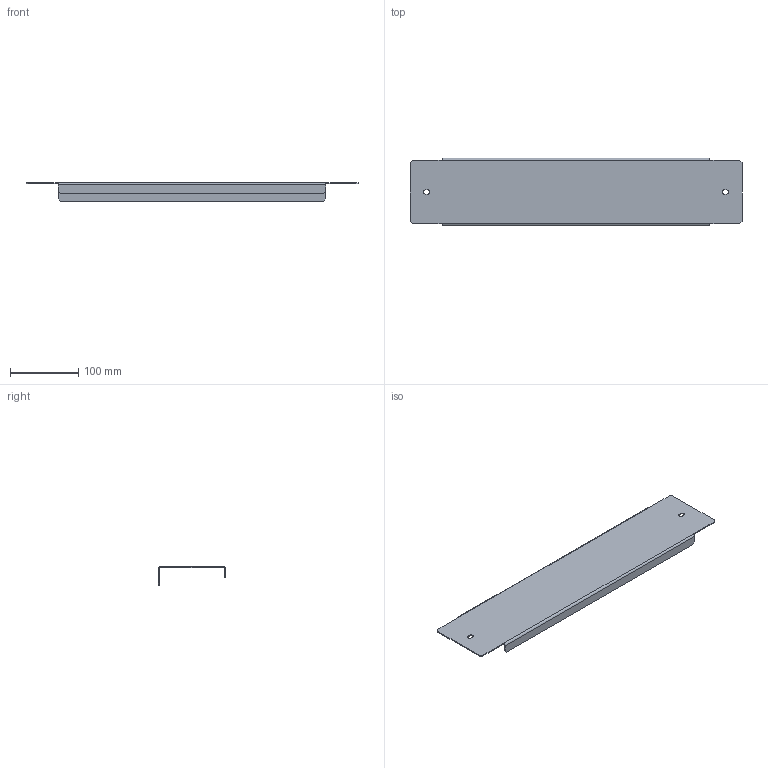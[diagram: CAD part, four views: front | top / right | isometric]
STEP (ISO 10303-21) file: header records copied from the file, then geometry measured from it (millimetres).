
FILE_DESCRIPTION (( 'STEP AP203' ), '1' );
FILE_NAME ('ZA 60 Ïàíåëü öîêîëÿ.STEP', '2012-11-20T05:12:18', ( 'system' ), ( '' ), 'SwSTEP 2.0', 'SolidWorks 2012', '' );
FILE_SCHEMA (( 'CONFIG_CONTROL_DESIGN' ));
Length unit declared in the file: millimetre
Products named in the file (1): ZA 60 Ïàíåëü öîêîëÿ
Bounding box: 486.5 x 99 x 27 mm (x, y, z)
Volume: 87675.6 mm3; surface area: 127046.6 mm2
Topology: 1 solids, 1 shells, 44 faces, 110 edges, 68 vertices
Faces by surface type: plane 34, cylinder 10
Entity records: 1371 total; most frequent: CARTESIAN_POINT 223, DIRECTION 220, ORIENTED_EDGE 220, EDGE_CURVE 110, LINE 90, VECTOR 90, VERTEX_POINT 68, AXIS2_PLACEMENT_3D 65
